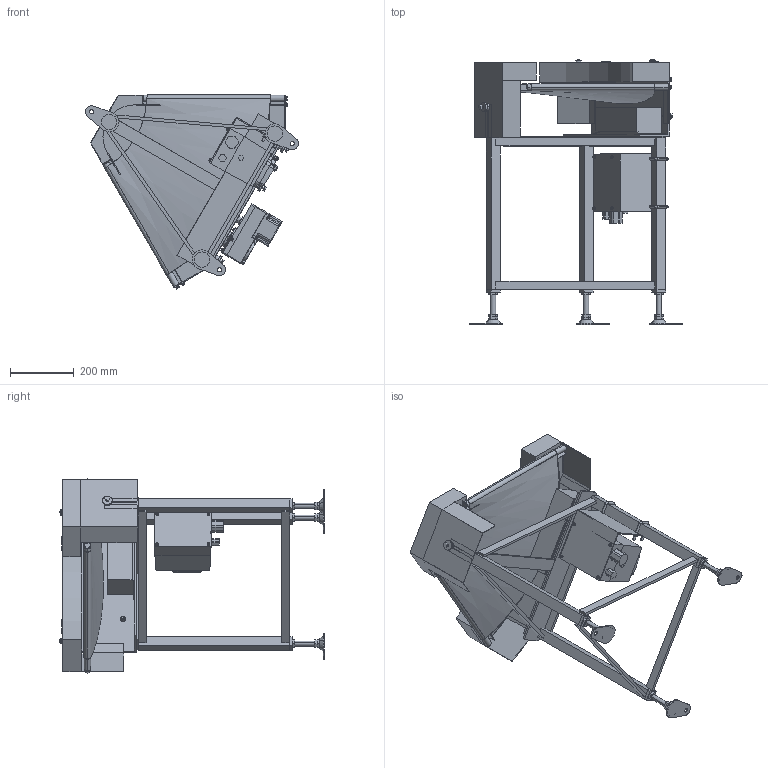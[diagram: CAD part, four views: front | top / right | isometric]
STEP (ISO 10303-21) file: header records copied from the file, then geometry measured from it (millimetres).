
FILE_DESCRIPTION (( 'STEP AP214' ), '1' );
FILE_NAME ('GFBC60-HS300-DC-L.STEP', '2024-01-18T02:11:44', ( '' ), ( '' ), 'SwSTEP 2.0', 'SolidWorks 2017', '' );
FILE_SCHEMA (( 'AUTOMOTIVE_DESIGN' ));
Length unit declared in the file: millimetre
Products named in the file (1): GFBC60-HS300-DC-L
Bounding box: 665.3 x 827.92 x 606.62 mm (x, y, z)
Volume: 17424271.4 mm3; surface area: 3125978.6 mm2
Topology: 65 solids, 66 shells, 1413 faces, 3303 edges, 2112 vertices
Faces by surface type: plane 862, cylinder 409, cone 73, bspline 45, torus 20, sphere 4
Entity records: 48143 total; most frequent: CARTESIAN_POINT 14831, DIRECTION 6782, ORIENTED_EDGE 6558, EDGE_CURVE 3279, AXIS2_PLACEMENT_3D 2345, VERTEX_POINT 2112, LINE 2092, VECTOR 2092
